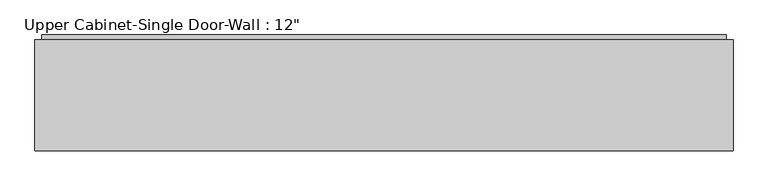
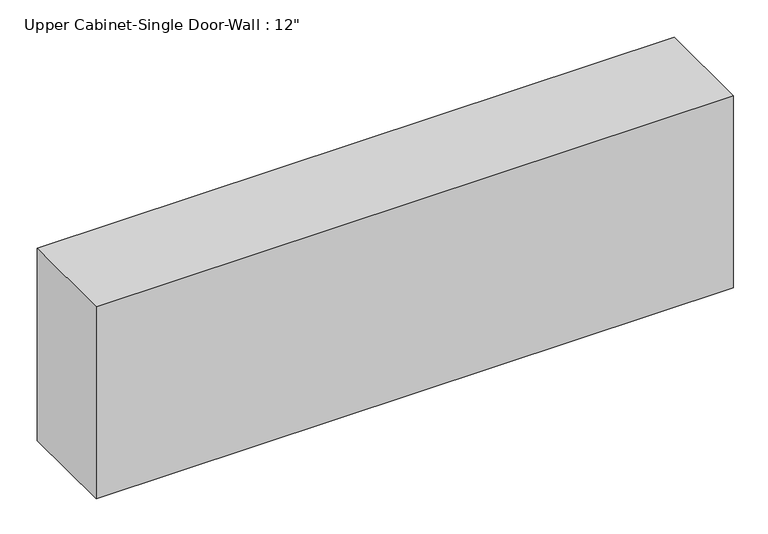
"""IFC4 building model written with IfcOpenShell, lengths in millimetres: furniture geometry."""

import ifcopenshell
import ifcopenshell.guid

model = None  # the IFC model being written
_history = None  # IfcOwnerHistory: only IFC2X3 demands one
_inside = {}  # id of a spatial element -> (the spatial element, [elements in it])
_under = {}  # id of a project, library or spatial element -> (it, [spatial elements below it])
_declared = {}  # id of a project -> (the project, [libraries it declares])
_typed = {}  # id of a type object -> (the type object, [elements of that type])
_made_of = {}  # id of a material, layer set ... -> (it, [elements and type objects made of it])


def new_model(schema):
    """Start an empty IFC model of exactly this schema.

    Asked for "IFC4X3", IfcOpenShell would pick the latest addendum, in which some entities
    have other attributes; the version numbers below select the first issue.
    IFC2X3 requires an IfcOwnerHistory on every rooted entity: one is made here for all.
    """
    global model, _history
    if schema == "IFC4X3":
        model = ifcopenshell.file(schema_version=(4, 3, 0, 0))
    else:
        model = ifcopenshell.file(schema=schema)
    _inside.clear()
    _under.clear()
    _declared.clear()
    _typed.clear()
    _made_of.clear()
    _history = None
    if model.schema == "IFC2X3":
        org = make("IfcOrganization", Name="unknown")
        user = make(
            "IfcPersonAndOrganization",
            ThePerson=make("IfcPerson", FamilyName="unknown"),
            TheOrganization=org,
        )
        app = make(
            "IfcApplication",
            ApplicationDeveloper=org,
            Version="unknown",
            ApplicationFullName="unknown",
            ApplicationIdentifier="unknown",
        )
        _history = make(
            "IfcOwnerHistory",
            OwningUser=user,
            OwningApplication=app,
            ChangeAction="ADDED",
            CreationDate=0,
        )
    return model


def make(cls, **values):
    """One entity of the class cls with the attributes given. An attribute that is None is left unset."""
    return model.create_entity(
        cls, **{name: value for name, value in values.items() if value is not None}
    )


def rooted(cls, **values):
    """An entity with a GlobalId (a new one), such as an element, a storey or a relation."""
    return make(cls, GlobalId=ifcopenshell.guid.new(), OwnerHistory=_history, **values)


def si_unit(unit_type, name, prefix=None):
    """IfcSIUnit, for example si_unit("LENGTHUNIT", "METRE", prefix="MILLI")."""
    return make("IfcSIUnit", UnitType=unit_type, Prefix=prefix, Name=name)


def assignment(units):
    """IfcUnitAssignment: the units of a project."""
    return None if units is None else make("IfcUnitAssignment", Units=units)


def point(xyz):
    """IfcCartesianPoint."""
    return None if xyz is None else make("IfcCartesianPoint", Coordinates=xyz)


def direction(xyz):
    """IfcDirection."""
    return None if xyz is None else make("IfcDirection", DirectionRatios=xyz)


def frame(location, z_axis=None, x_axis=None):
    """IfcAxis2Placement3D, a coordinate frame: its origin and axes. An axis left out is left unset."""
    return make(
        "IfcAxis2Placement3D",
        Location=point(location),
        Axis=direction(z_axis),
        RefDirection=direction(x_axis),
    )


def origin():
    """The frame at (0, 0, 0) with its axes left unset."""
    return frame((0.0, 0.0, 0.0))


def place(relative_to, where):
    """IfcLocalPlacement: puts the frame where relative to a parent placement (None: the world)."""
    return make(
        "IfcLocalPlacement", PlacementRelTo=relative_to, RelativePlacement=where
    )


def context(
    kind, dimensions, precision=None, world=None, true_north=None, identifier=None
):
    """IfcGeometricRepresentationContext, for example the 3D "Model" context."""
    return make(
        "IfcGeometricRepresentationContext",
        ContextIdentifier=identifier,
        ContextType=kind,
        CoordinateSpaceDimension=dimensions,
        Precision=precision,
        WorldCoordinateSystem=world,
        TrueNorth=true_north,
    )


def project(units=None, contexts=None):
    """IfcProject with its units and contexts."""
    return rooted(
        "IfcProject",
        Name="project",
        RepresentationContexts=contexts,
        UnitsInContext=assignment(units),
    )


def spatial(cls, under=None, at=None, **own):
    """A site, building, storey or space (cls), placed at a placement, below another one or the project."""
    s = rooted(cls, ObjectPlacement=at, **own)
    if under is not None:
        _under.setdefault(under.id(), (under, []))[1].append(s)
    return s


def polyline(points):
    """IfcPolyline through the points."""
    return make("IfcPolyline", Points=[point(p) for p in points])


def outline(outer, holes=None, kind="AREA"):
    """IfcArbitraryClosedProfileDef: a profile drawn as a closed curve; with holes, ...WithVoids."""
    if holes is None:
        return make("IfcArbitraryClosedProfileDef", ProfileType=kind, OuterCurve=outer)
    return make(
        "IfcArbitraryProfileDefWithVoids",
        ProfileType=kind,
        OuterCurve=outer,
        InnerCurves=holes,
    )


def extrude(swept, where, along, depth):
    """IfcExtrudedAreaSolid: the profile swept, set in the frame where, extruded along a direction by depth."""
    return make(
        "IfcExtrudedAreaSolid",
        SweptArea=swept,
        Position=where,
        ExtrudedDirection=direction(along),
        Depth=depth,
    )


def faces_of(points, faces, orient=None, outer=None):
    """IfcFace entities. A face is a list of loops; a loop is a list of indices into points, from 0.

    orient and outer hold one flag for each loop. By default every Orientation is true, the
    first loop of a face is its IfcFaceOuterBound and the others are IfcFaceBound.
    """
    made = []
    for i, loops in enumerate(faces):
        bounds = []
        for j, loop in enumerate(loops):
            is_outer = j == 0 if outer is None else outer[i][j]
            bounds.append(
                make(
                    "IfcFaceOuterBound" if is_outer else "IfcFaceBound",
                    Bound=make("IfcPolyLoop", Polygon=[points[k] for k in loop]),
                    Orientation=True if orient is None else orient[i][j],
                )
            )
        made.append(make("IfcFace", Bounds=bounds))
    return made


def faceted_brep(points, faces, orient=None, outer=None, voids=None):
    """IfcFacetedBrep: a solid bounded by flat faces; with voids (closed shells), ...WithVoids."""
    shared = [point(p) for p in points]
    hull = make("IfcClosedShell", CfsFaces=faces_of(shared, faces, orient, outer))
    if voids is None:
        return make("IfcFacetedBrep", Outer=hull)
    return make(
        "IfcFacetedBrepWithVoids",
        Outer=hull,
        Voids=[
            make(cls, CfsFaces=faces_of(shared, fs, o, b)) for cls, fs, o, b in voids
        ],
    )


def shape(context_of_items, identifier, shape_type, items):
    """IfcShapeRepresentation: the items that make up one representation, for example the "Body"."""
    return make(
        "IfcShapeRepresentation",
        ContextOfItems=context_of_items,
        RepresentationIdentifier=identifier,
        RepresentationType=shape_type,
        Items=items,
    )


def source(mapping_origin, context_of_items, identifier, shape_type, items):
    """IfcRepresentationMap: a shape defined once, which mapped items show again and again."""
    return make(
        "IfcRepresentationMap",
        MappingOrigin=mapping_origin,
        MappedRepresentation=shape(context_of_items, identifier, shape_type, items),
    )


def transform(
    local_origin,
    x_axis=None,
    y_axis=None,
    z_axis=None,
    scale=None,
    scale2=None,
    scale3=None,
    uniform=True,
):
    """IfcCartesianTransformationOperator3D, or its non-uniform kind. x_axis, y_axis, z_axis: its Axis1, 2, 3."""
    if uniform:
        return make(
            "IfcCartesianTransformationOperator3D",
            Axis1=direction(x_axis),
            Axis2=direction(y_axis),
            LocalOrigin=point(local_origin),
            Scale=scale,
            Axis3=direction(z_axis),
        )
    return make(
        "IfcCartesianTransformationOperator3DnonUniform",
        Axis1=direction(x_axis),
        Axis2=direction(y_axis),
        LocalOrigin=point(local_origin),
        Scale=scale,
        Axis3=direction(z_axis),
        Scale2=scale2,
        Scale3=scale3,
    )


def mapped(mapping_source, mapping_target):
    """IfcMappedItem: shows the shape of a source again, moved by a transform."""
    return make(
        "IfcMappedItem", MappingSource=mapping_source, MappingTarget=mapping_target
    )


def made_of(thing, what):
    """Note that an element or type object is made of a material, layer set ...; save() writes the relation."""
    if what is not None:
        _made_of.setdefault(what.id(), (what, []))[1].append(thing)
    return thing


def element(
    cls,
    number,
    at=None,
    inside=None,
    cuts=None,
    type_object=None,
    material=None,
    context=None,
    identifier="Body",
    shape_type=None,
    held_by="IfcProductDefinitionShape",
    body=None,
    shapes=None,
    **own,
):
    """One element of the class cls, such as IfcWall. Its Tag is "e" and its number.

    at: its placement. inside: the storey or other place that contains it. cuts: it is an
    opening in that element (IfcRelVoidsElement). A single representation is given by context,
    identifier, shape_type and body (its items); several are given by shapes. held_by: the class
    of the entity that holds the representations. save() writes the other relations.
    """
    e = rooted(cls, Tag="e%d" % number, ObjectPlacement=at, **own)
    if body is not None:
        shapes = [shape(context, identifier, shape_type, body)]
    if shapes is not None:
        e.Representation = make(held_by, Representations=shapes)
    if inside is not None:
        _inside.setdefault(inside.id(), (inside, []))[1].append(e)
    if cuts is not None:
        rooted(
            "IfcRelVoidsElement", RelatingBuildingElement=cuts, RelatedOpeningElement=e
        )
    if type_object is not None:
        _typed.setdefault(type_object.id(), (type_object, []))[1].append(e)
    return made_of(e, material)


def aggregate(whole, parts):
    """IfcRelAggregates: a whole, such as a stair, and the parts it consists of."""
    return rooted("IfcRelAggregates", RelatingObject=whole, RelatedObjects=parts)


def save(model, path):
    """Write the relations noted so far, then the file.

    IfcRelAggregates (storeys below a building ...), IfcRelContainedInSpatialStructure (elements
    in a storey), IfcRelDefinesByType, IfcRelAssociatesMaterial and IfcRelDeclares: one each for
    every whole, place, type object, material and project.
    """
    for whole, parts in _under.values():
        aggregate(whole, parts)
    for where, things in _inside.values():
        rooted(
            "IfcRelContainedInSpatialStructure",
            RelatedElements=things,
            RelatingStructure=where,
        )
    for kind, things in _typed.values():
        rooted("IfcRelDefinesByType", RelatedObjects=things, RelatingType=kind)
    for what, things in _made_of.values():
        rooted("IfcRelAssociatesMaterial", RelatedObjects=things, RelatingMaterial=what)
    for by, libraries in _declared.values():
        rooted("IfcRelDeclares", RelatingContext=by, RelatedDefinitions=libraries)
    model.write(path)


def furniture_f03ed958(model_context):
    return source(origin(), model_context, "Body", "SolidModel", [
        faceted_brep([(-1652.8605118, 82.55, 2133.6), (-1652.8605118, 82.55, 1524.0), (258.3711628, 82.55, 1524.0), (258.3711628, 82.55, 2133.6), (-1652.8605118, 387.35, 2133.6), (258.3711628, 387.35, 2133.6), (258.3711628, 387.35, 1524.0), (-1652.8605118, 387.35, 1524.0), (-1633.8105118, 387.35, 2114.55), (-1633.8105118, 387.35, 1543.05), (239.3211628, 387.35, 1543.05), (239.3211628, 387.35, 2114.55), (239.3211628, 101.6, 2114.55), (-1633.8105118, 101.6, 2114.55), (239.3211628, 101.6, 1543.05), (-1633.8105118, 101.6, 1543.05)], [[[0, 1, 2, 3]], [[4, 5, 6, 7], [8, 9, 10, 11]], [[1, 0, 4, 7]], [[2, 1, 7, 6]], [[3, 2, 6, 5]], [[0, 3, 5, 4]], [[8, 11, 12, 13]], [[11, 10, 14, 12]], [[10, 9, 15, 14]], [[9, 8, 13, 15]], [[13, 12, 14, 15]]]),
        extrude(outline(polyline([(-1633.8105118, 400.05), (239.3211628, 400.05), (239.3211628, 368.3), (-1633.8105118, 368.3), (-1633.8105118, 400.05)])), frame((0.0, 0.0, 1543.05), z_axis=(0.0, 0.0, 1.0), x_axis=(1.0, 0.0, 0.0)), (0.0, 0.0, 1.0), 571.5),
    ])


if __name__ == "__main__":
    model = new_model("IFC4")
    model_context = context("Model", 3, world=origin())
    ifc_project = project(units=[si_unit("LENGTHUNIT", "METRE", prefix="MILLI")], contexts=[model_context])
    site = spatial("IfcSite", under=ifc_project)
    building = spatial("IfcBuilding", under=site)
    placement = place(None, origin())
    furniture_shape = furniture_f03ed958(model_context)
    element("IfcFurniture", 1, ObjectType="Upper Cabinet-Single Door-Wall : 12\"", at=placement, inside=building, context=model_context, shape_type="MappedRepresentation", body=[
        mapped(furniture_shape, transform((0.0, 0.0, 0.0), x_axis=(1.0, 0.0, 0.0), y_axis=(0.0, 1.0, 0.0), z_axis=(0.0, 0.0, 1.0))),
    ])
    save(model, "model.ifc")
